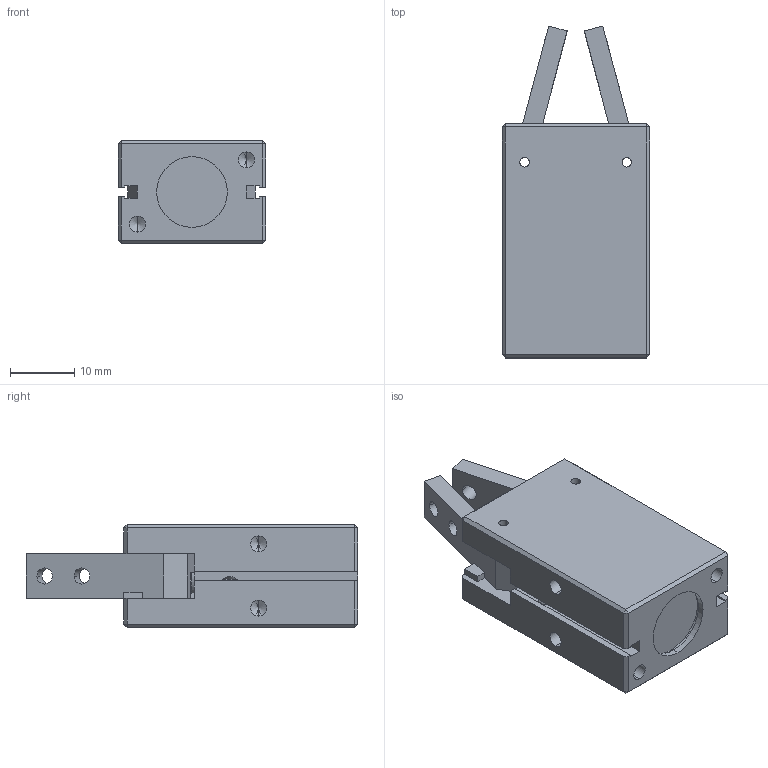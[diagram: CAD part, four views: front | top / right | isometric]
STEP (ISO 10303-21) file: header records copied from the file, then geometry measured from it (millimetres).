
FILE_DESCRIPTION (( 'STEP AP203' ), '1' );
FILE_NAME ('GDS.10-CLOSE.STEP', '2011-10-20T11:44:09', ( 'Christophe Gaillard' ), ( 'SGA' ), 'SwSTEP 2.0', 'SolidWorks 2010', '' );
FILE_SCHEMA (( 'CONFIG_CONTROL_DESIGN' ));
Length unit declared in the file: millimetre
Products named in the file (5): GDS10(corps); Pièce2; Pièce1; GDS.10-CLOSE; Pièce7
Assembly tree (6 placements, depth 2):
  GDS.10-CLOSE
    Pièce1
    Pièce7  x2
    Pièce2  x2
    GDS10(corps)
Bounding box: 23 x 51.75 x 16 mm (x, y, z)
Volume: 12146 mm3; surface area: 7144.9 mm2
Topology: 6 solids, 6 shells, 574 faces, 1528 edges, 999 vertices
Faces by surface type: plane 301, bspline 212, cylinder 46, cone 15
Entity records: 31966 total; most frequent: CARTESIAN_POINT 19117, ORIENTED_EDGE 2912, DIRECTION 1801, EDGE_CURVE 1456, VERTEX_POINT 959, VECTOR 943, LINE 943, EDGE_LOOP 613
